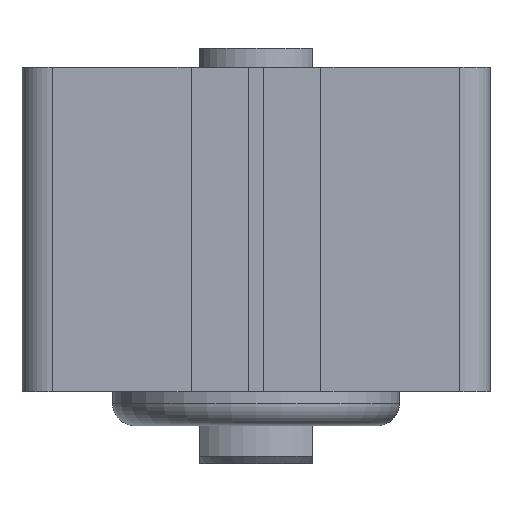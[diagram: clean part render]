
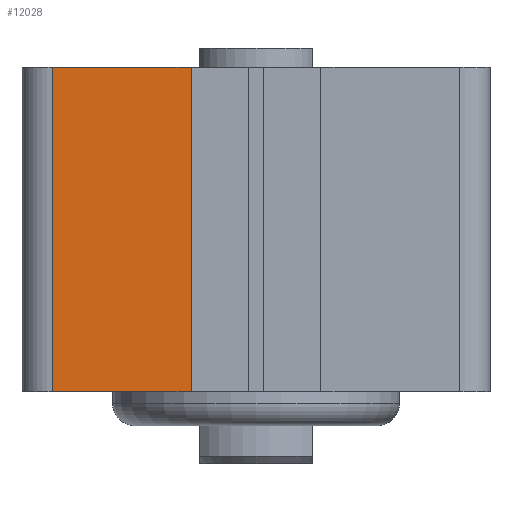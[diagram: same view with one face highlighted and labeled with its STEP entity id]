
A CAD part, front view. The second image highlights one B-rep face of the part: STEP entity #12028.
In plain terms, the highlighted planar face has unit normal (0, -1, 0).
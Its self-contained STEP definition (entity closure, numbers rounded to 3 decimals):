
#185 = CARTESIAN_POINT ( 'NONE',  ( 0., -31., 43. ) ) ;
#381 = DIRECTION ( 'NONE',  ( -1., 0., 0. ) ) ;
#611 = DIRECTION ( 'NONE',  ( 0., 0., -1. ) ) ;
#1264 = DIRECTION ( 'NONE',  ( 1., 0., 0. ) ) ;
#1955 = CARTESIAN_POINT ( 'NONE',  ( -8.6, -31., 0. ) ) ;
#2426 = VECTOR ( 'NONE', #7663, 1000. ) ;
#4224 = DIRECTION ( 'NONE',  ( 0., 1., 0. ) ) ;
#4463 = CARTESIAN_POINT ( 'NONE',  ( -8.6, -31., 43. ) ) ;
#4558 = VERTEX_POINT ( 'NONE', #6601 ) ;
#4951 = ORIENTED_EDGE ( 'NONE', *, *, #8561, .T. ) ;
#5535 = VECTOR ( 'NONE', #611, 1000. ) ;
#6218 = VERTEX_POINT ( 'NONE', #1955 ) ;
#6463 = CARTESIAN_POINT ( 'NONE',  ( -8.6, -31., 43. ) ) ;
#6503 = VERTEX_POINT ( 'NONE', #4463 ) ;
#6514 = LINE ( 'NONE', #185, #10743 ) ;
#6601 = CARTESIAN_POINT ( 'NONE',  ( -27., -31., 43. ) ) ;
#6765 = LINE ( 'NONE', #6463, #5535 ) ;
#7104 = EDGE_CURVE ( 'NONE', #8193, #6218, #8648, .T. ) ;
#7591 = EDGE_CURVE ( 'NONE', #4558, #6503, #6514, .T. ) ;
#7653 = FACE_OUTER_BOUND ( 'NONE', #7883, .T. ) ;
#7663 = DIRECTION ( 'NONE',  ( 0., 0., -1. ) ) ;
#7883 = EDGE_LOOP ( 'NONE', ( #9552, #8011, #8996, #4951 ) ) ;
#7973 = AXIS2_PLACEMENT_3D ( 'NONE', #8137, #4224, #381 ) ;
#8011 = ORIENTED_EDGE ( 'NONE', *, *, #11751, .F. ) ;
#8050 = CARTESIAN_POINT ( 'NONE',  ( -27., -31., 0. ) ) ;
#8137 = CARTESIAN_POINT ( 'NONE',  ( 0., -31., 43. ) ) ;
#8193 = VERTEX_POINT ( 'NONE', #8050 ) ;
#8561 = EDGE_CURVE ( 'NONE', #4558, #8193, #9200, .T. ) ;
#8648 = LINE ( 'NONE', #12535, #11347 ) ;
#8675 = CARTESIAN_POINT ( 'NONE',  ( -27., -31., 43. ) ) ;
#8996 = ORIENTED_EDGE ( 'NONE', *, *, #7591, .F. ) ;
#9021 = PLANE ( 'NONE',  #7973 ) ;
#9200 = LINE ( 'NONE', #8675, #2426 ) ;
#9552 = ORIENTED_EDGE ( 'NONE', *, *, #7104, .T. ) ;
#10418 = DIRECTION ( 'NONE',  ( 1., 0., 0. ) ) ;
#10743 = VECTOR ( 'NONE', #1264, 1000. ) ;
#11347 = VECTOR ( 'NONE', #10418, 1000. ) ;
#11751 = EDGE_CURVE ( 'NONE', #6503, #6218, #6765, .T. ) ;
#12028 = ADVANCED_FACE ( 'NONE', ( #7653 ), #9021, .F. ) ;
#12535 = CARTESIAN_POINT ( 'NONE',  ( 0., -31., 0. ) ) ;
